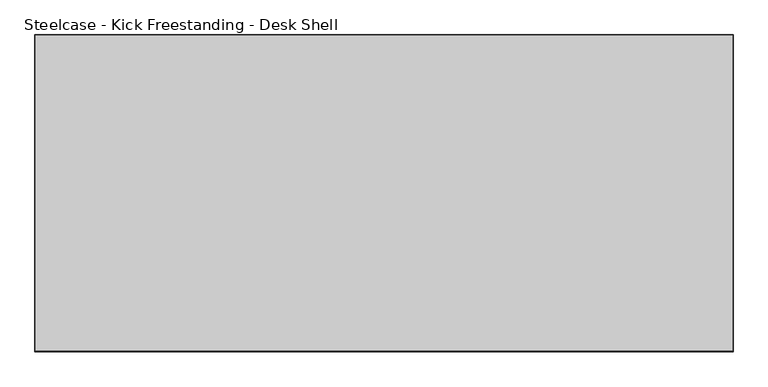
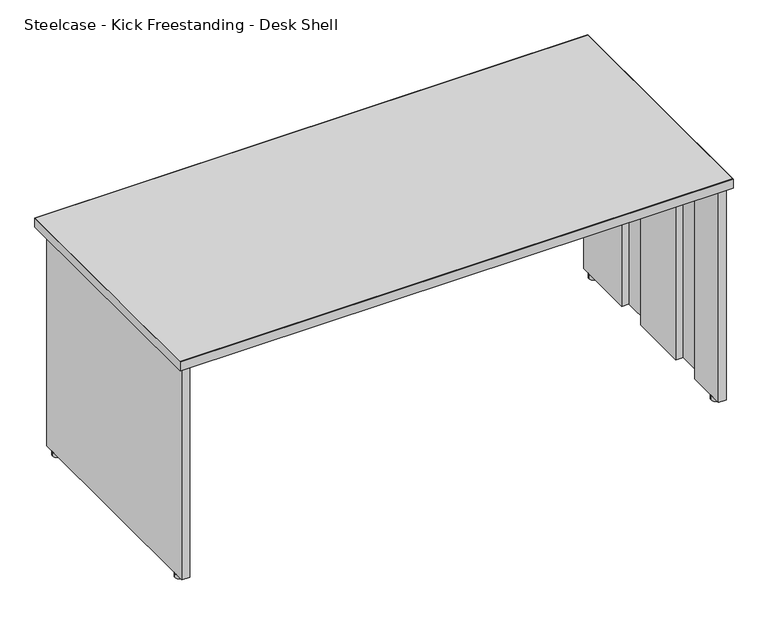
"""IFC4 building model written with IfcOpenShell, lengths in millimetres: furniture geometry, Steelcase - Kick Freestanding - Desk Shell : 30D x 66W."""

from ifc_helpers import new_model, si_unit, point, frame, frame_2d, origin, origin_with_axes, place, context, project, spatial, polyline, circle_curve, trimmed, segment, composite_curve, outline, extrude, source, transform, mapped, element, save


def steelcase_kick_freestanding_desk_shell_b8937540(model_context):
    return source(origin(), model_context, "Body", "SweptSolid", [
        extrude(outline(composite_curve([segment(trimmed(circle_curve(frame_2d((665.1357759, -1004.2087877)), 13.97), [point((651.1657759, -1004.2087877))], [point((679.1057759, -1004.2087877))], False, "CARTESIAN"), True, "CONTINUOUS"), segment(trimmed(circle_curve(frame_2d((665.1357759, -1004.2087877)), 13.97), [point((679.1057759, -1004.2087877))], [point((651.1657759, -1004.2087877))], False, "CARTESIAN"), True, "CONTINUOUS")], self_intersect=False)), origin_with_axes(), (0.0, 0.0, 1.0), 12.446),
        extrude(outline(composite_curve([segment(trimmed(circle_curve(frame_2d((665.1357759, -1646.0441481)), 13.97), [point((651.1657759, -1646.0441481))], [point((679.1057759, -1646.0441481))], False, "CARTESIAN"), True, "CONTINUOUS"), segment(trimmed(circle_curve(frame_2d((665.1357759, -1646.0441481)), 13.97), [point((679.1057759, -1646.0441481))], [point((651.1657759, -1646.0441481))], False, "CARTESIAN"), True, "CONTINUOUS")], self_intersect=False)), origin_with_axes(), (0.0, 0.0, 1.0), 12.446),
        extrude(outline(polyline([(2279.0738425, -1172.2529604), (2279.0738425, -972.7867604), (2303.5594421, -972.7867604), (2303.5594421, -1680.938741), (2279.0738421, -1680.938741), (2279.0738421, -1556.6311348), (2301.5020425, -1556.6311348), (2301.5020425, -1456.9107682), (2279.0738421, -1456.9107682), (2279.0738421, -1271.9733647), (2301.5020425, -1271.9733647), (2301.5020425, -1172.2529604), (2279.0738425, -1172.2529604)])), frame((0.0, 0.0, 12.446), z_axis=(0.0, 0.0, 1.0), x_axis=(1.0, 0.0, 0.0)), (0.0, 0.0, 1.0), 682.498),
        extrude(outline(polyline([(677.0450425, -1172.2529604), (654.6168425, -1172.2529604), (654.6168425, -1271.9733647), (677.0450429, -1271.9733647), (677.0450429, -1456.9107682), (654.6168425, -1456.9107682), (654.6168425, -1556.6311348), (677.0450429, -1556.6311348), (677.0450429, -1680.938741), (652.5594429, -1680.938741), (652.5594429, -972.7867604), (677.0450425, -972.7867604), (677.0450425, -1172.2529604)])), frame((0.0, 0.0, 12.446), z_axis=(0.0, 0.0, 1.0), x_axis=(1.0, 0.0, 0.0)), (0.0, 0.0, 1.0), 682.498),
        extrude(outline(polyline([(2315.2688425, -932.6293604), (2315.2688425, -1690.6669215), (640.8500425, -1690.6669215), (640.8500425, -932.6293604), (2315.2688425, -932.6293604)])), frame((0.0, 0.0, 694.944), z_axis=(0.0, 0.0, 1.0), x_axis=(1.0, 0.0, 0.0)), (0.0, 0.0, 1.0), 28.956),
        extrude(outline(polyline([(2316.2594425, -931.6387604), (2316.2594425, -1693.6387604), (639.8594425, -1693.6387604), (639.8594425, -931.6387604), (2316.2594425, -931.6387604)]), holes=[polyline([(2315.2688425, -932.6293604), (640.8500425, -932.6293604), (640.8500425, -1690.6669215), (2315.2688425, -1690.6669215), (2315.2688425, -932.6293604)])]), frame((0.0, 0.0, 694.944), z_axis=(0.0, 0.0, 1.0), x_axis=(1.0, 0.0, 0.0)), (0.0, 0.0, 1.0), 28.956),
        extrude(outline(composite_curve([segment(trimmed(circle_curve(frame_2d((2290.9831091, -1646.0441481)), 13.97), [point((2277.0131091, -1646.0441481))], [point((2304.9531091, -1646.0441481))], False, "CARTESIAN"), True, "CONTINUOUS"), segment(trimmed(circle_curve(frame_2d((2290.9831091, -1646.0441481)), 13.97), [point((2304.9531091, -1646.0441481))], [point((2277.0131091, -1646.0441481))], False, "CARTESIAN"), True, "CONTINUOUS")], self_intersect=False)), origin_with_axes(), (0.0, 0.0, 1.0), 12.446),
        extrude(outline(composite_curve([segment(trimmed(circle_curve(frame_2d((2290.9831091, -1004.2087877)), 13.97), [point((2304.9531091, -1004.2087877))], [point((2277.0131091, -1004.2087877))], False, "CARTESIAN"), True, "CONTINUOUS"), segment(trimmed(circle_curve(frame_2d((2290.9831091, -1004.2087877)), 13.97), [point((2277.0131091, -1004.2087877))], [point((2304.9531091, -1004.2087877))], False, "CARTESIAN"), True, "CONTINUOUS")], self_intersect=False)), origin_with_axes(), (0.0, 0.0, 1.0), 12.446),
    ])


if __name__ == "__main__":
    model = new_model("IFC4")
    model_context = context("Model", 3, world=origin())
    ifc_project = project(units=[si_unit("LENGTHUNIT", "METRE", prefix="MILLI")], contexts=[model_context])
    site = spatial("IfcSite", under=ifc_project)
    building = spatial("IfcBuilding", under=site)
    placement = place(None, origin())
    steelcase_kick_freestanding_desk_shell_shape = steelcase_kick_freestanding_desk_shell_b8937540(model_context)
    element("IfcFurniture", 1, ObjectType="Steelcase - Kick Freestanding - Desk Shell : 30D x 66W", at=placement, inside=building, context=model_context, shape_type="MappedRepresentation", body=[
        mapped(steelcase_kick_freestanding_desk_shell_shape, transform((0.0, 0.0, 0.0), x_axis=(1.0, 0.0, 0.0), y_axis=(0.0, 1.0, 0.0), z_axis=(0.0, 0.0, 1.0))),
    ])
    save(model, "model.ifc")
